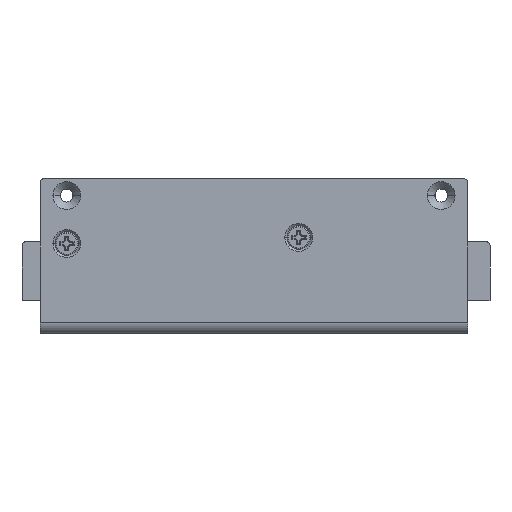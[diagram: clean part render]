
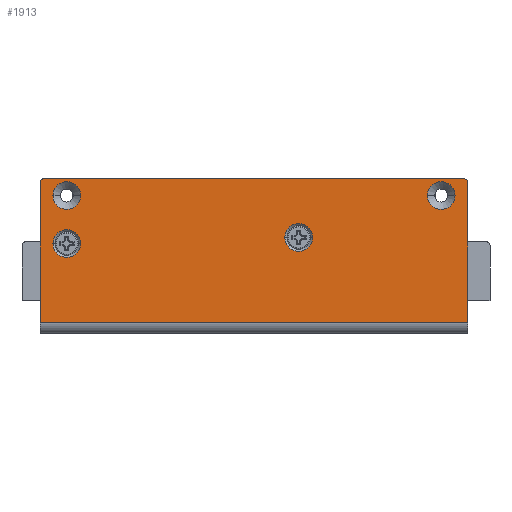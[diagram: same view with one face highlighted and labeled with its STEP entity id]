
A CAD part, front view. The second image highlights one B-rep face of the part: STEP entity #1913.
In plain terms, the highlighted planar face has unit normal (0, -1, 0).
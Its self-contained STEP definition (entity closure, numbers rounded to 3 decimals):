
#72=CARTESIAN_POINT('',(1.,0.,37.1));
#73=DIRECTION('',(0.,-1.,0.));
#74=DIRECTION('',(0.,0.,1.));
#75=AXIS2_PLACEMENT_3D('',#72,#73,#74);
#77=DIRECTION('',(-1.,0.,0.));
#78=VECTOR('',#77,103.);
#79=CARTESIAN_POINT('',(104.,0.,38.1));
#80=LINE('',#79,#78);
#81=CARTESIAN_POINT('',(104.,0.,37.1));
#82=DIRECTION('',(0.,-1.,0.));
#83=DIRECTION('',(1.,0.,0.));
#84=AXIS2_PLACEMENT_3D('',#81,#82,#83);
#86=DIRECTION('',(0.,0.,1.));
#87=VECTOR('',#86,34.4);
#88=CARTESIAN_POINT('',(105.,0.,2.7));
#89=LINE('',#88,#87);
#90=DIRECTION('',(0.,0.,-1.));
#91=VECTOR('',#90,34.4);
#92=CARTESIAN_POINT('',(0.,0.,37.1));
#93=LINE('',#92,#91);
#94=CARTESIAN_POINT('',(63.5,0.,23.6));
#95=DIRECTION('',(0.,1.,0.));
#96=DIRECTION('',(1.,0.,0.));
#97=AXIS2_PLACEMENT_3D('',#94,#95,#96);
#99=CARTESIAN_POINT('',(63.5,0.,23.6));
#100=DIRECTION('',(0.,1.,0.));
#101=DIRECTION('',(-1.,0.,0.));
#102=AXIS2_PLACEMENT_3D('',#99,#100,#101);
#104=CARTESIAN_POINT('',(6.5,0.,22.1));
#105=DIRECTION('',(0.,1.,0.));
#106=DIRECTION('',(1.,0.,0.));
#107=AXIS2_PLACEMENT_3D('',#104,#105,#106);
#109=CARTESIAN_POINT('',(6.5,0.,22.1));
#110=DIRECTION('',(0.,1.,0.));
#111=DIRECTION('',(-1.,0.,0.));
#112=AXIS2_PLACEMENT_3D('',#109,#110,#111);
#114=CARTESIAN_POINT('',(6.5,0.,33.9));
#115=DIRECTION('',(0.,1.,0.));
#116=DIRECTION('',(1.,0.,0.));
#117=AXIS2_PLACEMENT_3D('',#114,#115,#116);
#119=CARTESIAN_POINT('',(6.5,0.,33.9));
#120=DIRECTION('',(0.,1.,0.));
#121=DIRECTION('',(-1.,0.,0.));
#122=AXIS2_PLACEMENT_3D('',#119,#120,#121);
#124=CARTESIAN_POINT('',(98.5,0.,33.9));
#125=DIRECTION('',(0.,1.,0.));
#126=DIRECTION('',(1.,0.,0.));
#127=AXIS2_PLACEMENT_3D('',#124,#125,#126);
#129=CARTESIAN_POINT('',(98.5,0.,33.9));
#130=DIRECTION('',(0.,1.,0.));
#131=DIRECTION('',(-1.,0.,0.));
#132=AXIS2_PLACEMENT_3D('',#129,#130,#131);
#600=DIRECTION('',(-1.,0.,0.));
#601=VECTOR('',#600,105.);
#602=CARTESIAN_POINT('',(105.,0.,2.7));
#603=LINE('',#602,#601);
#1387=CARTESIAN_POINT('',(1.,0.,38.1));
#1388=CARTESIAN_POINT('',(0.,0.,37.1));
#1389=VERTEX_POINT('',#1387);
#1390=VERTEX_POINT('',#1388);
#1391=CARTESIAN_POINT('',(0.,0.,2.7));
#1392=VERTEX_POINT('',#1391);
#1393=CARTESIAN_POINT('',(105.,0.,2.7));
#1394=VERTEX_POINT('',#1393);
#1395=CARTESIAN_POINT('',(105.,0.,37.1));
#1396=VERTEX_POINT('',#1395);
#1397=CARTESIAN_POINT('',(104.,0.,38.1));
#1398=VERTEX_POINT('',#1397);
#1596=CARTESIAN_POINT('',(101.9,0.,33.9));
#1598=VERTEX_POINT('',#1596);
#1600=CARTESIAN_POINT('',(95.1,0.,33.9));
#1602=VERTEX_POINT('',#1600);
#1608=CARTESIAN_POINT('',(66.9,0.,23.6));
#1610=VERTEX_POINT('',#1608);
#1612=CARTESIAN_POINT('',(60.1,0.,23.6));
#1614=VERTEX_POINT('',#1612);
#1620=CARTESIAN_POINT('',(9.9,0.,33.9));
#1622=VERTEX_POINT('',#1620);
#1624=CARTESIAN_POINT('',(3.1,0.,33.9));
#1626=VERTEX_POINT('',#1624);
#1632=CARTESIAN_POINT('',(9.9,0.,22.1));
#1634=VERTEX_POINT('',#1632);
#1636=CARTESIAN_POINT('',(3.1,0.,22.1));
#1638=VERTEX_POINT('',#1636);
#1872=CARTESIAN_POINT('',(52.5,0.,19.379));
#1873=DIRECTION('',(0.,1.,0.));
#1874=DIRECTION('',(1.,0.,0.));
#1875=AXIS2_PLACEMENT_3D('',#1872,#1873,#1874);
#1876=PLANE('',#1875);
#1877=ORIENTED_EDGE('',*,*,#1862,.F.);
#1879=ORIENTED_EDGE('',*,*,#1878,.F.);
#1881=ORIENTED_EDGE('',*,*,#1880,.F.);
#1883=ORIENTED_EDGE('',*,*,#1882,.F.);
#1885=ORIENTED_EDGE('',*,*,#1884,.T.);
#1887=ORIENTED_EDGE('',*,*,#1886,.F.);
#1888=EDGE_LOOP('',(#1877,#1879,#1881,#1883,#1885,#1887));
#1889=FACE_OUTER_BOUND('',#1888,.F.);
#1891=ORIENTED_EDGE('',*,*,#1890,.F.);
#1893=ORIENTED_EDGE('',*,*,#1892,.F.);
#1894=EDGE_LOOP('',(#1891,#1893));
#1895=FACE_BOUND('',#1894,.F.);
#1897=ORIENTED_EDGE('',*,*,#1896,.F.);
#1899=ORIENTED_EDGE('',*,*,#1898,.F.);
#1900=EDGE_LOOP('',(#1897,#1899));
#1901=FACE_BOUND('',#1900,.F.);
#1903=ORIENTED_EDGE('',*,*,#1902,.F.);
#1905=ORIENTED_EDGE('',*,*,#1904,.F.);
#1906=EDGE_LOOP('',(#1903,#1905));
#1907=FACE_BOUND('',#1906,.F.);
#1908=ORIENTED_EDGE('',*,*,#1792,.F.);
#1910=ORIENTED_EDGE('',*,*,#1909,.F.);
#1911=EDGE_LOOP('',(#1908,#1910));
#1912=FACE_BOUND('',#1911,.F.);
#76=CIRCLE('',#75,1.);
#85=CIRCLE('',#84,1.);
#98=CIRCLE('',#97,3.4);
#103=CIRCLE('',#102,3.4);
#108=CIRCLE('',#107,3.4);
#113=CIRCLE('',#112,3.4);
#118=CIRCLE('',#117,3.4);
#123=CIRCLE('',#122,3.4);
#128=CIRCLE('',#127,3.4);
#133=CIRCLE('',#132,3.4);
#1792=EDGE_CURVE('',#1598,#1602,#128,.T.);
#1862=EDGE_CURVE('',#1389,#1390,#76,.T.);
#1878=EDGE_CURVE('',#1398,#1389,#80,.T.);
#1880=EDGE_CURVE('',#1396,#1398,#85,.T.);
#1882=EDGE_CURVE('',#1394,#1396,#89,.T.);
#1884=EDGE_CURVE('',#1394,#1392,#603,.T.);
#1886=EDGE_CURVE('',#1390,#1392,#93,.T.);
#1890=EDGE_CURVE('',#1610,#1614,#98,.T.);
#1892=EDGE_CURVE('',#1614,#1610,#103,.T.);
#1896=EDGE_CURVE('',#1634,#1638,#108,.T.);
#1898=EDGE_CURVE('',#1638,#1634,#113,.T.);
#1902=EDGE_CURVE('',#1622,#1626,#118,.T.);
#1904=EDGE_CURVE('',#1626,#1622,#123,.T.);
#1909=EDGE_CURVE('',#1602,#1598,#133,.T.);
#1913=ADVANCED_FACE('',(#1889,#1895,#1901,#1907,#1912),#1876,.F.);
